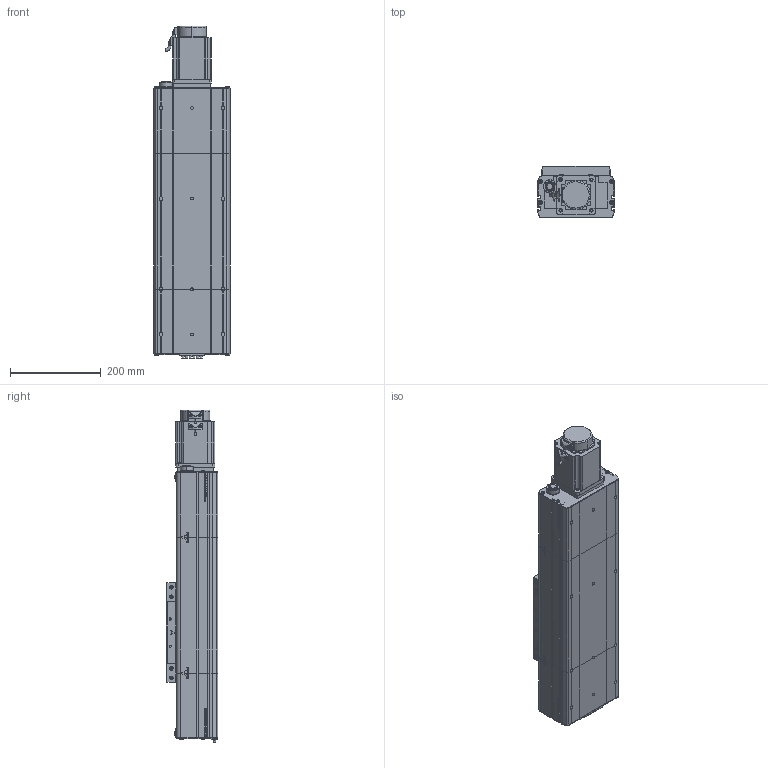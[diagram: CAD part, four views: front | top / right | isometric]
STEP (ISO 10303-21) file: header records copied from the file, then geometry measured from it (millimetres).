
FILE_DESCRIPTION (( 'STEP AP214' ), '1' );
FILE_NAME ('D17 CSH MD S300.STEP', '2010-06-29T13:53:01', ( 'Christophe Gaillard' ), ( 'SGA' ), 'SwSTEP 2.0', 'SolidWorks 2010', '' );
FILE_SCHEMA (( 'AUTOMOTIVE_DESIGN' ));
Length unit declared in the file: millimetre
Products named in the file (25): couvercle D17 head_Default; codeur 90BLDC100-640; Corp Tail D17+100_Default; couvercle D17-300_Default; Conecteur2_Default; Corp L300_Default; Corp D17 S300_Default; Conecteur_Default; Plaque de bout D17_Default; support chariot D17_Default; Tail D17+100_Default; plaque de serrage D17_Default; couvercle D17_Default; Chariot D17_Default; chariot D17_Default; vis M5 L15_Default; glissiere_Default; Head D17 MD_Default; D17 CSH MD S300; Corp Head D17 MD_Default; plaque de serrage D17 head_Default; Plaque de bout D17 head_Default; corps 90BLDC100A-640; avant 90BLDC100A-640; Moteur motionking 90BLDC100A-640
Assembly tree (44 placements, depth 4):
  D17 CSH MD S300
    Corp D17 S300_Default
      couvercle D17-300_Default
      Corp L300_Default
    Tail D17+100_Default
      vis M5 L15_Default  x6
      plaque de serrage D17_Default
      Plaque de bout D17_Default
      Corp Tail D17+100_Default
      couvercle D17_Default
    Head D17 MD_Default
      Corp Head D17 MD_Default
      vis M5 L15_Default  x7
      Plaque de bout D17 head_Default
      Moteur motionking 90BLDC100A-640
        corps 90BLDC100A-640
        Conecteur_Default
        codeur 90BLDC100-640
        avant 90BLDC100A-640
        Conecteur2_Default
      couvercle D17 head_Default
      plaque de serrage D17 head_Default
    Chariot D17_Default
      vis M5 L15_Default  x8
      glissiere_Default
      chariot D17_Default
      support chariot D17_Default
Bounding box: 172 x 114 x 733 mm (x, y, z)
Volume: 5056884.1 mm3; surface area: 937908.1 mm2
Topology: 81 solids, 81 shells, 2945 faces, 7466 edges, 4896 vertices
Faces by surface type: plane 1786, bspline 710, cylinder 354, torus 53, cone 42
Entity records: 142731 total; most frequent: CARTESIAN_POINT 78177, ORIENTED_EDGE 12928, DIRECTION 9154, EDGE_CURVE 6464, LINE 4432, VECTOR 4432, VERTEX_POINT 4296, EDGE_LOOP 2722
